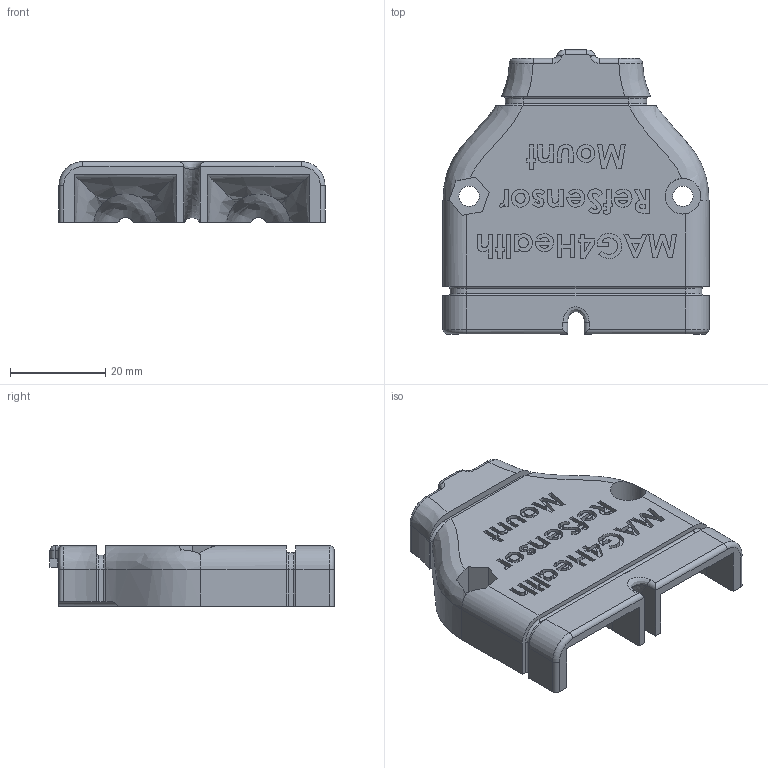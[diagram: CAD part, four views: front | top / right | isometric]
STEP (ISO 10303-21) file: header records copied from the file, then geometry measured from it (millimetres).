
FILE_DESCRIPTION (( 'STEP AP203' ), '1' );
FILE_NAME ('M4H_RefSensorMount.STEP', '2026-07-31T15:43:43', ( '' ), ( '' ), 'SwSTEP 2.0', 'SolidWorks 2026', '' );
FILE_SCHEMA (( 'CONFIG_CONTROL_DESIGN' ));
Length unit declared in the file: millimetre
Products named in the file (1): M4H_RefSensorMount
Bounding box: 56 x 59.8 x 12.75 mm (x, y, z)
Volume: 20984.2 mm3; surface area: 10148.1 mm2
Topology: 1 solids, 1 shells, 481 faces, 1290 edges, 844 vertices
Faces by surface type: plane 262, bspline 168, cylinder 43, torus 8
Entity records: 23179 total; most frequent: CARTESIAN_POINT 12231, ORIENTED_EDGE 2580, DIRECTION 1655, EDGE_CURVE 1290, VERTEX_POINT 844, VECTOR 843, LINE 843, EDGE_LOOP 518
